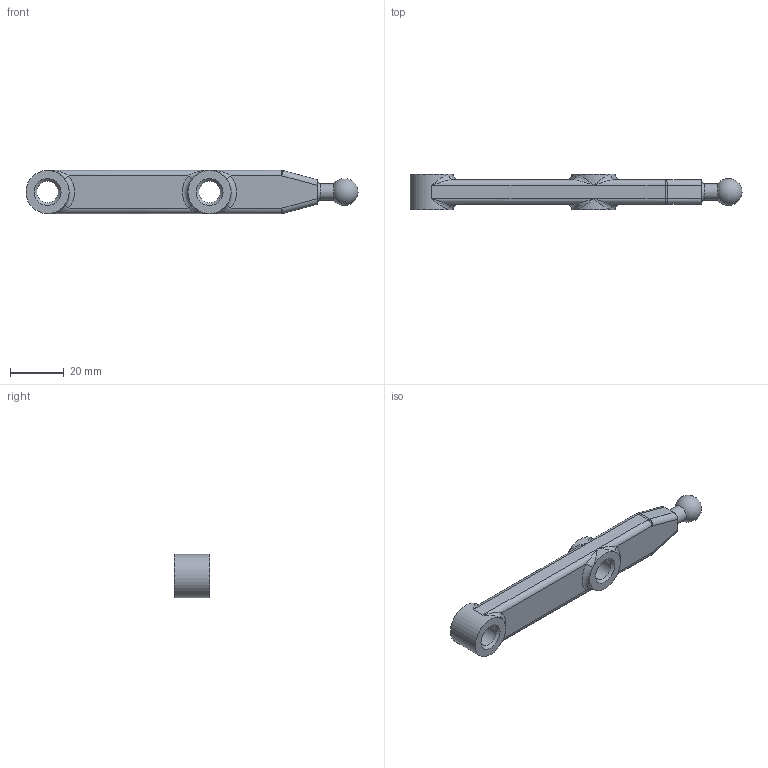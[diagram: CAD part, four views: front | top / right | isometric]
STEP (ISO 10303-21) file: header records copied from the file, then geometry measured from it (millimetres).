
FILE_DESCRIPTION(/* description */ (''),/* implementation_level */ '2;1');
FILE_NAME(/* name */ '',/* time_stamp */ '2025-06-11T17:32:22+09:00',/* author */ ('jhkim'),/* organization */ (''),/* preprocessor_version */ 'ST-DEVELOPER v20.1',/* originating_system */ 'Autodesk Inventor 2026',/* authorisation */ '');
FILE_SCHEMA (('AUTOMOTIVE_DESIGN { 1 0 10303 214 3 1 1 }'));
Length unit declared in the file: millimetre
Products named in the file (1): 링크
Bounding box: 122.97 x 13 x 16 mm (x, y, z)
Volume: 15581.3 mm3; surface area: 6197.3 mm2
Topology: 1 solids, 1 shells, 63 faces, 145 edges, 72 vertices
Faces by surface type: cylinder 22, bspline 16, plane 13, torus 7, cone 4, sphere 1
Full cylindrical faces by diameter (mm): 6 x1, 8 x2
Entity records: 2450 total; most frequent: CARTESIAN_POINT 1118, DIRECTION 271, ORIENTED_EDGE 264, EDGE_CURVE 132, AXIS2_PLACEMENT_3D 115, VERTEX_POINT 72, EDGE_LOOP 68, FACE_OUTER_BOUND 63
